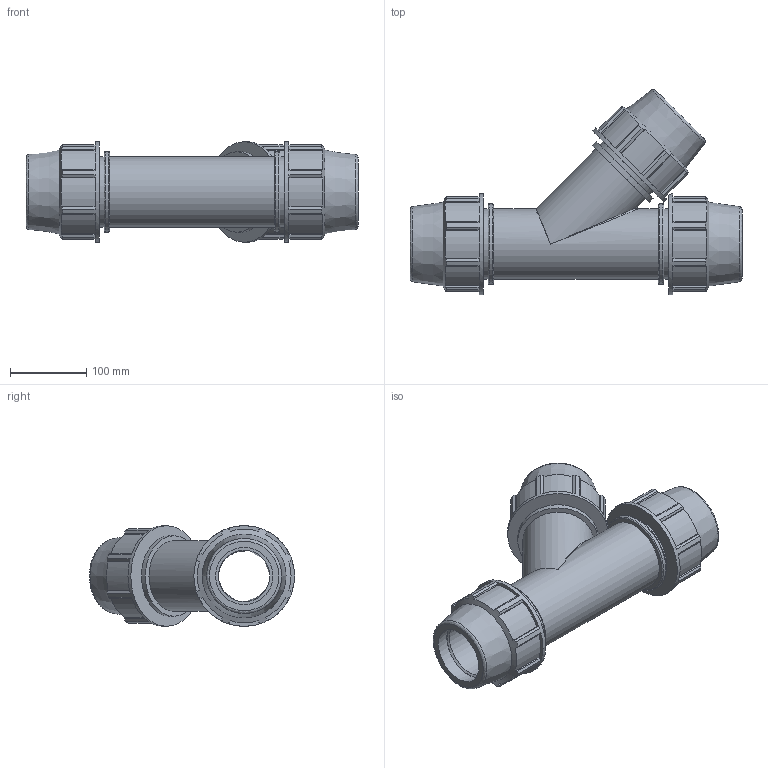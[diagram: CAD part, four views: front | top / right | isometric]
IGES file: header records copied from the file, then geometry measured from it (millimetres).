
Global section: file name: 0764060750A.ipt; native system: Autodesk Inventor 2015; preprocessor: unknown; author: KIM; date: 20170608.042742; units: millimetre
Bounding box: 435 x 268.78 x 132 mm (x, y, z)
Volume: 2670743.6 mm3; surface area: 394161.8 mm2
Topology: 1 solids, 1 shells, 199 faces, 566 edges, 380 vertices
Faces by surface type: plane 138, cylinder 35, revolution 18, cone 6, bspline 2
Full cylindrical faces by diameter (mm): 92.4 x5, 105.6 x3, 132 x3
